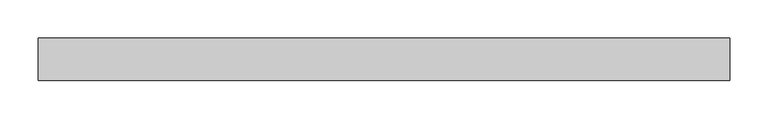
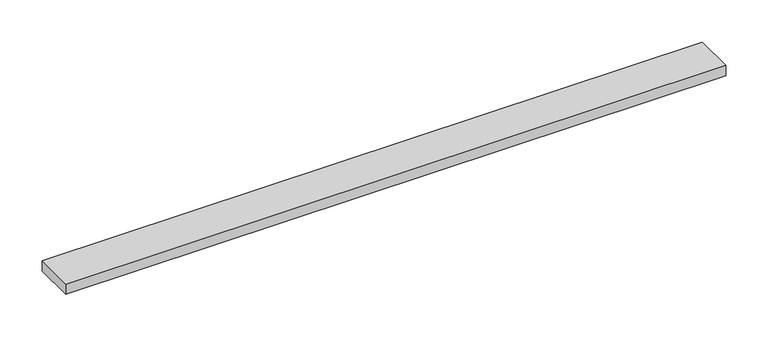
"""IFC4 building model written with IfcOpenShell, lengths in millimetres: sanitary terminal geometry, PF_UN_ShowerDrain S+_ACO : watertrap H=50."""

import ifcopenshell
import ifcopenshell.guid

model = None  # the IFC model being written
_history = None  # IfcOwnerHistory: only IFC2X3 demands one
_inside = {}  # id of a spatial element -> (the spatial element, [elements in it])
_under = {}  # id of a project, library or spatial element -> (it, [spatial elements below it])
_declared = {}  # id of a project -> (the project, [libraries it declares])
_typed = {}  # id of a type object -> (the type object, [elements of that type])
_made_of = {}  # id of a material, layer set ... -> (it, [elements and type objects made of it])


def new_model(schema):
    """Start an empty IFC model of exactly this schema.

    Asked for "IFC4X3", IfcOpenShell would pick the latest addendum, in which some entities
    have other attributes; the version numbers below select the first issue.
    IFC2X3 requires an IfcOwnerHistory on every rooted entity: one is made here for all.
    """
    global model, _history
    if schema == "IFC4X3":
        model = ifcopenshell.file(schema_version=(4, 3, 0, 0))
    else:
        model = ifcopenshell.file(schema=schema)
    _inside.clear()
    _under.clear()
    _declared.clear()
    _typed.clear()
    _made_of.clear()
    _history = None
    if model.schema == "IFC2X3":
        org = make("IfcOrganization", Name="unknown")
        user = make(
            "IfcPersonAndOrganization",
            ThePerson=make("IfcPerson", FamilyName="unknown"),
            TheOrganization=org,
        )
        app = make(
            "IfcApplication",
            ApplicationDeveloper=org,
            Version="unknown",
            ApplicationFullName="unknown",
            ApplicationIdentifier="unknown",
        )
        _history = make(
            "IfcOwnerHistory",
            OwningUser=user,
            OwningApplication=app,
            ChangeAction="ADDED",
            CreationDate=0,
        )
    return model


def make(cls, **values):
    """One entity of the class cls with the attributes given. An attribute that is None is left unset."""
    return model.create_entity(
        cls, **{name: value for name, value in values.items() if value is not None}
    )


def rooted(cls, **values):
    """An entity with a GlobalId (a new one), such as an element, a storey or a relation."""
    return make(cls, GlobalId=ifcopenshell.guid.new(), OwnerHistory=_history, **values)


def si_unit(unit_type, name, prefix=None):
    """IfcSIUnit, for example si_unit("LENGTHUNIT", "METRE", prefix="MILLI")."""
    return make("IfcSIUnit", UnitType=unit_type, Prefix=prefix, Name=name)


def assignment(units):
    """IfcUnitAssignment: the units of a project."""
    return None if units is None else make("IfcUnitAssignment", Units=units)


def point(xyz):
    """IfcCartesianPoint."""
    return None if xyz is None else make("IfcCartesianPoint", Coordinates=xyz)


def direction(xyz):
    """IfcDirection."""
    return None if xyz is None else make("IfcDirection", DirectionRatios=xyz)


def frame(location, z_axis=None, x_axis=None):
    """IfcAxis2Placement3D, a coordinate frame: its origin and axes. An axis left out is left unset."""
    return make(
        "IfcAxis2Placement3D",
        Location=point(location),
        Axis=direction(z_axis),
        RefDirection=direction(x_axis),
    )


def origin():
    """The frame at (0, 0, 0) with its axes left unset."""
    return frame((0.0, 0.0, 0.0))


def place(relative_to, where):
    """IfcLocalPlacement: puts the frame where relative to a parent placement (None: the world)."""
    return make(
        "IfcLocalPlacement", PlacementRelTo=relative_to, RelativePlacement=where
    )


def context(
    kind, dimensions, precision=None, world=None, true_north=None, identifier=None
):
    """IfcGeometricRepresentationContext, for example the 3D "Model" context."""
    return make(
        "IfcGeometricRepresentationContext",
        ContextIdentifier=identifier,
        ContextType=kind,
        CoordinateSpaceDimension=dimensions,
        Precision=precision,
        WorldCoordinateSystem=world,
        TrueNorth=true_north,
    )


def project(units=None, contexts=None):
    """IfcProject with its units and contexts."""
    return rooted(
        "IfcProject",
        Name="project",
        RepresentationContexts=contexts,
        UnitsInContext=assignment(units),
    )


def spatial(cls, under=None, at=None, **own):
    """A site, building, storey or space (cls), placed at a placement, below another one or the project."""
    s = rooted(cls, ObjectPlacement=at, **own)
    if under is not None:
        _under.setdefault(under.id(), (under, []))[1].append(s)
    return s


def polyline(points):
    """IfcPolyline through the points."""
    return make("IfcPolyline", Points=[point(p) for p in points])


def outline(outer, holes=None, kind="AREA"):
    """IfcArbitraryClosedProfileDef: a profile drawn as a closed curve; with holes, ...WithVoids."""
    if holes is None:
        return make("IfcArbitraryClosedProfileDef", ProfileType=kind, OuterCurve=outer)
    return make(
        "IfcArbitraryProfileDefWithVoids",
        ProfileType=kind,
        OuterCurve=outer,
        InnerCurves=holes,
    )


def extrude(swept, where, along, depth):
    """IfcExtrudedAreaSolid: the profile swept, set in the frame where, extruded along a direction by depth."""
    return make(
        "IfcExtrudedAreaSolid",
        SweptArea=swept,
        Position=where,
        ExtrudedDirection=direction(along),
        Depth=depth,
    )


def shape(context_of_items, identifier, shape_type, items):
    """IfcShapeRepresentation: the items that make up one representation, for example the "Body"."""
    return make(
        "IfcShapeRepresentation",
        ContextOfItems=context_of_items,
        RepresentationIdentifier=identifier,
        RepresentationType=shape_type,
        Items=items,
    )


def source(mapping_origin, context_of_items, identifier, shape_type, items):
    """IfcRepresentationMap: a shape defined once, which mapped items show again and again."""
    return make(
        "IfcRepresentationMap",
        MappingOrigin=mapping_origin,
        MappedRepresentation=shape(context_of_items, identifier, shape_type, items),
    )


def transform(
    local_origin,
    x_axis=None,
    y_axis=None,
    z_axis=None,
    scale=None,
    scale2=None,
    scale3=None,
    uniform=True,
):
    """IfcCartesianTransformationOperator3D, or its non-uniform kind. x_axis, y_axis, z_axis: its Axis1, 2, 3."""
    if uniform:
        return make(
            "IfcCartesianTransformationOperator3D",
            Axis1=direction(x_axis),
            Axis2=direction(y_axis),
            LocalOrigin=point(local_origin),
            Scale=scale,
            Axis3=direction(z_axis),
        )
    return make(
        "IfcCartesianTransformationOperator3DnonUniform",
        Axis1=direction(x_axis),
        Axis2=direction(y_axis),
        LocalOrigin=point(local_origin),
        Scale=scale,
        Axis3=direction(z_axis),
        Scale2=scale2,
        Scale3=scale3,
    )


def mapped(mapping_source, mapping_target):
    """IfcMappedItem: shows the shape of a source again, moved by a transform."""
    return make(
        "IfcMappedItem", MappingSource=mapping_source, MappingTarget=mapping_target
    )


def made_of(thing, what):
    """Note that an element or type object is made of a material, layer set ...; save() writes the relation."""
    if what is not None:
        _made_of.setdefault(what.id(), (what, []))[1].append(thing)
    return thing


def element(
    cls,
    number,
    at=None,
    inside=None,
    cuts=None,
    type_object=None,
    material=None,
    context=None,
    identifier="Body",
    shape_type=None,
    held_by="IfcProductDefinitionShape",
    body=None,
    shapes=None,
    **own,
):
    """One element of the class cls, such as IfcWall. Its Tag is "e" and its number.

    at: its placement. inside: the storey or other place that contains it. cuts: it is an
    opening in that element (IfcRelVoidsElement). A single representation is given by context,
    identifier, shape_type and body (its items); several are given by shapes. held_by: the class
    of the entity that holds the representations. save() writes the other relations.
    """
    e = rooted(cls, Tag="e%d" % number, ObjectPlacement=at, **own)
    if body is not None:
        shapes = [shape(context, identifier, shape_type, body)]
    if shapes is not None:
        e.Representation = make(held_by, Representations=shapes)
    if inside is not None:
        _inside.setdefault(inside.id(), (inside, []))[1].append(e)
    if cuts is not None:
        rooted(
            "IfcRelVoidsElement", RelatingBuildingElement=cuts, RelatedOpeningElement=e
        )
    if type_object is not None:
        _typed.setdefault(type_object.id(), (type_object, []))[1].append(e)
    return made_of(e, material)


def aggregate(whole, parts):
    """IfcRelAggregates: a whole, such as a stair, and the parts it consists of."""
    return rooted("IfcRelAggregates", RelatingObject=whole, RelatedObjects=parts)


def save(model, path):
    """Write the relations noted so far, then the file.

    IfcRelAggregates (storeys below a building ...), IfcRelContainedInSpatialStructure (elements
    in a storey), IfcRelDefinesByType, IfcRelAssociatesMaterial and IfcRelDeclares: one each for
    every whole, place, type object, material and project.
    """
    for whole, parts in _under.values():
        aggregate(whole, parts)
    for where, things in _inside.values():
        rooted(
            "IfcRelContainedInSpatialStructure",
            RelatedElements=things,
            RelatingStructure=where,
        )
    for kind, things in _typed.values():
        rooted("IfcRelDefinesByType", RelatedObjects=things, RelatingType=kind)
    for what, things in _made_of.values():
        rooted("IfcRelAssociatesMaterial", RelatedObjects=things, RelatingMaterial=what)
    for by, libraries in _declared.values():
        rooted("IfcRelDeclares", RelatingContext=by, RelatedDefinitions=libraries)
    model.write(path)


def sanitary_terminal_83286328(model_context):
    return source(origin(), model_context, "Body", "SweptSolid", [
        extrude(outline(polyline([(450.0, 27.5), (450.0, -27.5), (-450.0, -27.5), (-450.0, 27.5), (450.0, 27.5)])), frame((0.0, 0.0, -15.0), z_axis=(0.0, 0.0, 1.0), x_axis=(1.0, 0.0, 0.0)), (0.0, 0.0, 1.0), 15.0),
    ])


if __name__ == "__main__":
    model = new_model("IFC4")
    model_context = context("Model", 3, world=origin())
    ifc_project = project(units=[si_unit("LENGTHUNIT", "METRE", prefix="MILLI")], contexts=[model_context])
    site = spatial("IfcSite", under=ifc_project)
    building = spatial("IfcBuilding", under=site)
    placement = place(None, origin())
    sanitary_terminal_shape = sanitary_terminal_83286328(model_context)
    element("IfcSanitaryTerminal", 1, ObjectType="PF_UN_ShowerDrain S+_ACO : watertrap H=50", at=placement, inside=building, context=model_context, shape_type="MappedRepresentation", body=[
        mapped(sanitary_terminal_shape, transform((0.0, 0.0, 0.0), x_axis=(1.0, 0.0, 0.0), y_axis=(0.0, 1.0, 0.0), z_axis=(0.0, 0.0, 1.0))),
    ])
    save(model, "model.ifc")
